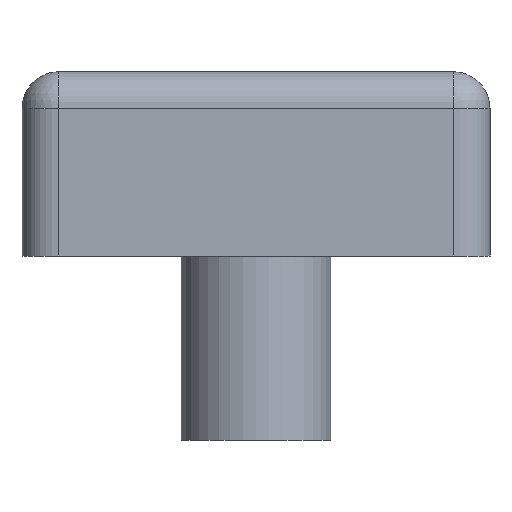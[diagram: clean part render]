
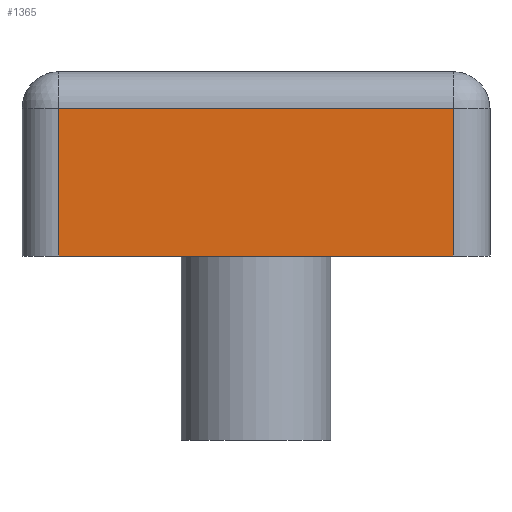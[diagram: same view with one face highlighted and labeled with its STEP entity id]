
A CAD part, front view. The second image highlights one B-rep face of the part: STEP entity #1365.
In plain terms, the highlighted planar face has unit normal (0, -1, 0).
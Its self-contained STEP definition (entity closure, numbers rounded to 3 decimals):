
#126 = PLANE('',#127);
#127 = AXIS2_PLACEMENT_3D('',#128,#129,#130);
#128 = CARTESIAN_POINT('',(-3.175,6.35,0.));
#129 = DIRECTION('',(0.,0.,1.));
#130 = DIRECTION('',(1.,0.,0.));
#391 = VERTEX_POINT('',#392);
#392 = CARTESIAN_POINT('',(-2.675,-6.35,0.));
#407 = CYLINDRICAL_SURFACE('',#408,0.5);
#408 = AXIS2_PLACEMENT_3D('',#409,#410,#411);
#409 = CARTESIAN_POINT('',(-2.675,-5.85,0.));
#410 = DIRECTION('',(0.,0.,1.));
#411 = DIRECTION('',(-1.,0.,0.));
#419 = EDGE_CURVE('',#420,#391,#422,.T.);
#420 = VERTEX_POINT('',#421);
#421 = CARTESIAN_POINT('',(2.675,-6.35,0.));
#422 = SURFACE_CURVE('',#423,(#427,#434),.PCURVE_S1.);
#423 = LINE('',#424,#425);
#424 = CARTESIAN_POINT('',(3.175,-6.35,0.));
#425 = VECTOR('',#426,1.);
#426 = DIRECTION('',(-1.,0.,0.));
#427 = PCURVE('',#126,#428);
#428 = DEFINITIONAL_REPRESENTATION('',(#429),#433);
#429 = LINE('',#430,#431);
#430 = CARTESIAN_POINT('',(6.35,-12.7));
#431 = VECTOR('',#432,1.);
#432 = DIRECTION('',(-1.,0.));
#433 = ( GEOMETRIC_REPRESENTATION_CONTEXT(2) 
PARAMETRIC_REPRESENTATION_CONTEXT() REPRESENTATION_CONTEXT('2D SPACE',''
  ) );
#434 = PCURVE('',#435,#440);
#435 = PLANE('',#436);
#436 = AXIS2_PLACEMENT_3D('',#437,#438,#439);
#437 = CARTESIAN_POINT('',(3.175,-6.35,0.));
#438 = DIRECTION('',(0.,-1.,0.));
#439 = DIRECTION('',(-1.,0.,0.));
#440 = DEFINITIONAL_REPRESENTATION('',(#441),#445);
#441 = LINE('',#442,#443);
#442 = CARTESIAN_POINT('',(0.,0.));
#443 = VECTOR('',#444,1.);
#444 = DIRECTION('',(1.,0.));
#445 = ( GEOMETRIC_REPRESENTATION_CONTEXT(2) 
PARAMETRIC_REPRESENTATION_CONTEXT() REPRESENTATION_CONTEXT('2D SPACE',''
  ) );
#468 = CYLINDRICAL_SURFACE('',#469,0.5);
#469 = AXIS2_PLACEMENT_3D('',#470,#471,#472);
#470 = CARTESIAN_POINT('',(2.675,-5.85,0.));
#471 = DIRECTION('',(0.,0.,1.));
#472 = DIRECTION('',(1.,0.,0.));
#912 = CYLINDRICAL_SURFACE('',#913,0.5);
#913 = AXIS2_PLACEMENT_3D('',#914,#915,#916);
#914 = CARTESIAN_POINT('',(3.175,-5.85,2.));
#915 = DIRECTION('',(-1.,0.,0.));
#916 = DIRECTION('',(0.,0.,1.));
#1260 = EDGE_CURVE('',#391,#1261,#1263,.T.);
#1261 = VERTEX_POINT('',#1262);
#1262 = CARTESIAN_POINT('',(-2.675,-6.35,2.));
#1263 = SURFACE_CURVE('',#1264,(#1268,#1275),.PCURVE_S1.);
#1264 = LINE('',#1265,#1266);
#1265 = CARTESIAN_POINT('',(-2.675,-6.35,0.));
#1266 = VECTOR('',#1267,1.);
#1267 = DIRECTION('',(0.,0.,1.));
#1268 = PCURVE('',#407,#1269);
#1269 = DEFINITIONAL_REPRESENTATION('',(#1270),#1274);
#1270 = LINE('',#1271,#1272);
#1271 = CARTESIAN_POINT('',(1.571,0.));
#1272 = VECTOR('',#1273,1.);
#1273 = DIRECTION('',(0.,1.));
#1274 = ( GEOMETRIC_REPRESENTATION_CONTEXT(2) 
PARAMETRIC_REPRESENTATION_CONTEXT() REPRESENTATION_CONTEXT('2D SPACE',''
  ) );
#1275 = PCURVE('',#435,#1276);
#1276 = DEFINITIONAL_REPRESENTATION('',(#1277),#1281);
#1277 = LINE('',#1278,#1279);
#1278 = CARTESIAN_POINT('',(5.85,0.));
#1279 = VECTOR('',#1280,1.);
#1280 = DIRECTION('',(0.,-1.));
#1281 = ( GEOMETRIC_REPRESENTATION_CONTEXT(2) 
PARAMETRIC_REPRESENTATION_CONTEXT() REPRESENTATION_CONTEXT('2D SPACE',''
  ) );
#1315 = EDGE_CURVE('',#420,#1316,#1318,.T.);
#1316 = VERTEX_POINT('',#1317);
#1317 = CARTESIAN_POINT('',(2.675,-6.35,2.));
#1318 = SURFACE_CURVE('',#1319,(#1323,#1330),.PCURVE_S1.);
#1319 = LINE('',#1320,#1321);
#1320 = CARTESIAN_POINT('',(2.675,-6.35,0.));
#1321 = VECTOR('',#1322,1.);
#1322 = DIRECTION('',(0.,0.,1.));
#1323 = PCURVE('',#468,#1324);
#1324 = DEFINITIONAL_REPRESENTATION('',(#1325),#1329);
#1325 = LINE('',#1326,#1327);
#1326 = CARTESIAN_POINT('',(-1.571,0.));
#1327 = VECTOR('',#1328,1.);
#1328 = DIRECTION('',(0.,1.));
#1329 = ( GEOMETRIC_REPRESENTATION_CONTEXT(2) 
PARAMETRIC_REPRESENTATION_CONTEXT() REPRESENTATION_CONTEXT('2D SPACE',''
  ) );
#1330 = PCURVE('',#435,#1331);
#1331 = DEFINITIONAL_REPRESENTATION('',(#1332),#1336);
#1332 = LINE('',#1333,#1334);
#1333 = CARTESIAN_POINT('',(0.5,0.));
#1334 = VECTOR('',#1335,1.);
#1335 = DIRECTION('',(0.,-1.));
#1336 = ( GEOMETRIC_REPRESENTATION_CONTEXT(2) 
PARAMETRIC_REPRESENTATION_CONTEXT() REPRESENTATION_CONTEXT('2D SPACE',''
  ) );
#1365 = ADVANCED_FACE('',(#1366),#435,.T.);
#1366 = FACE_BOUND('',#1367,.T.);
#1367 = EDGE_LOOP('',(#1368,#1369,#1370,#1391));
#1368 = ORIENTED_EDGE('',*,*,#419,.F.);
#1369 = ORIENTED_EDGE('',*,*,#1315,.T.);
#1370 = ORIENTED_EDGE('',*,*,#1371,.T.);
#1371 = EDGE_CURVE('',#1316,#1261,#1372,.T.);
#1372 = SURFACE_CURVE('',#1373,(#1377,#1384),.PCURVE_S1.);
#1373 = LINE('',#1374,#1375);
#1374 = CARTESIAN_POINT('',(3.175,-6.35,2.));
#1375 = VECTOR('',#1376,1.);
#1376 = DIRECTION('',(-1.,0.,0.));
#1377 = PCURVE('',#435,#1378);
#1378 = DEFINITIONAL_REPRESENTATION('',(#1379),#1383);
#1379 = LINE('',#1380,#1381);
#1380 = CARTESIAN_POINT('',(0.,-2.));
#1381 = VECTOR('',#1382,1.);
#1382 = DIRECTION('',(1.,0.));
#1383 = ( GEOMETRIC_REPRESENTATION_CONTEXT(2) 
PARAMETRIC_REPRESENTATION_CONTEXT() REPRESENTATION_CONTEXT('2D SPACE',''
  ) );
#1384 = PCURVE('',#912,#1385);
#1385 = DEFINITIONAL_REPRESENTATION('',(#1386),#1390);
#1386 = LINE('',#1387,#1388);
#1387 = CARTESIAN_POINT('',(-1.571,0.));
#1388 = VECTOR('',#1389,1.);
#1389 = DIRECTION('',(0.,1.));
#1390 = ( GEOMETRIC_REPRESENTATION_CONTEXT(2) 
PARAMETRIC_REPRESENTATION_CONTEXT() REPRESENTATION_CONTEXT('2D SPACE',''
  ) );
#1391 = ORIENTED_EDGE('',*,*,#1260,.F.);
